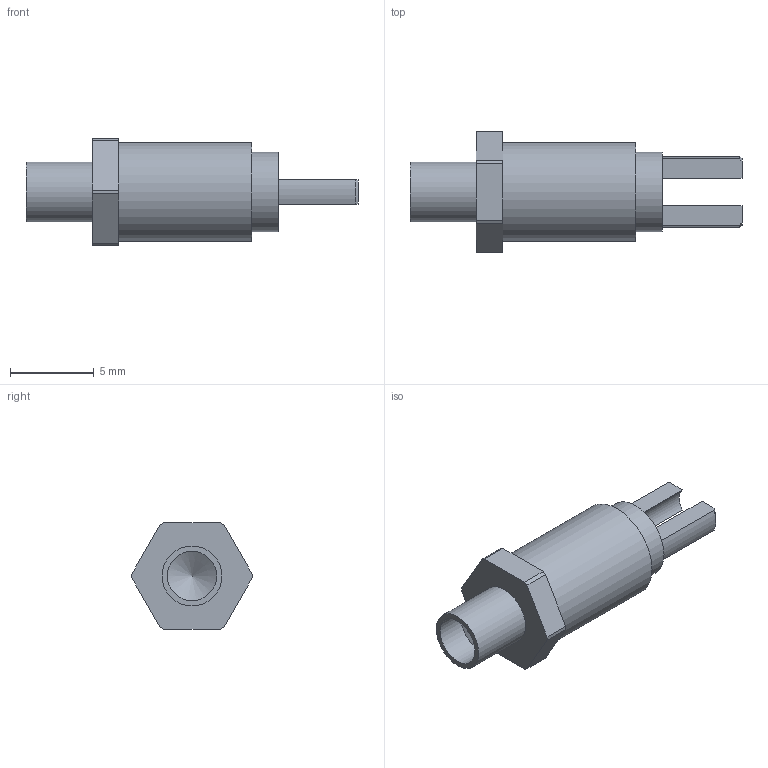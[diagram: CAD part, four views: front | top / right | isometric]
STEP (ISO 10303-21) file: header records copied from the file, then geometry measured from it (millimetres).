
FILE_DESCRIPTION(/* description */ (''),/* implementation_level */ '2;1');
FILE_NAME(/* name */ '\\Snap1\dwgs\Customer 3D Models\572\572-4861-03 Customer model.stp',/* time_stamp */ '2017-01-11T15:11:19+00:00',/* author */ ('paulk'),/* organization */ (''),/* preprocessor_version */ 'ST-DEVELOPER v15.2',/* originating_system */ 'Autodesk Inventor 2014',/* authorisation */ '');
FILE_SCHEMA (('CONFIG_CONTROL_DESIGN'));
Length unit declared in the file: millimetre
Products named in the file (1): 572-4861-03 Customer model
Bounding box: 19.84 x 7.2 x 6.35 mm (x, y, z)
Volume: 340.4 mm3; surface area: 388.4 mm2
Topology: 1 solids, 1 shells, 34 faces, 80 edges, 53 vertices
Faces by surface type: plane 17, cylinder 14, cone 3
Full cylindrical faces by diameter (mm): 2.946 x1, 3.581 x1, 4.775 x1, 5.893 x1
Entity records: 1031 total; most frequent: DIRECTION 170, CARTESIAN_POINT 169, ORIENTED_EDGE 148, EDGE_CURVE 74, AXIS2_PLACEMENT_3D 65, VERTEX_POINT 52, EDGE_LOOP 44, LINE 40
